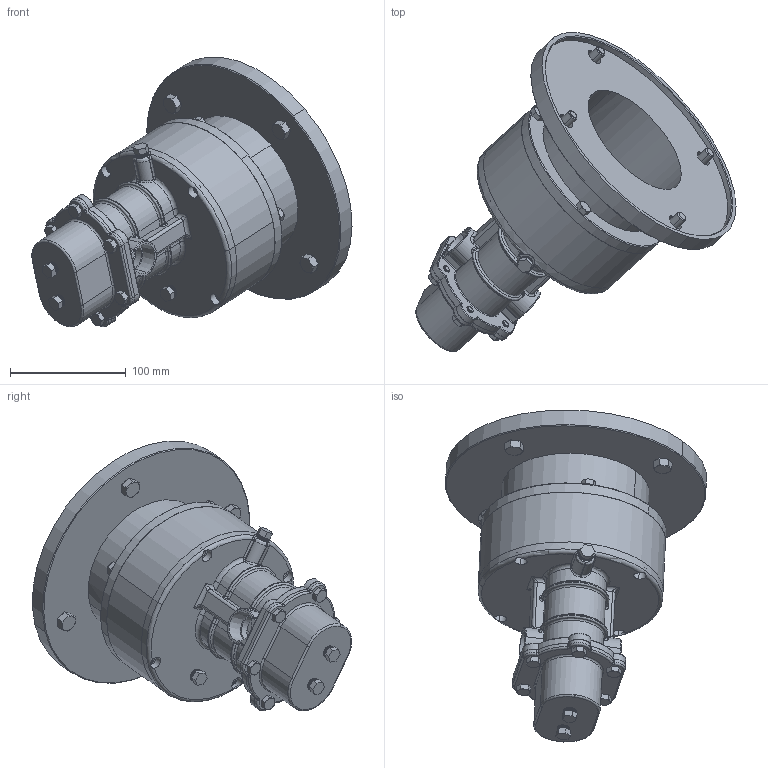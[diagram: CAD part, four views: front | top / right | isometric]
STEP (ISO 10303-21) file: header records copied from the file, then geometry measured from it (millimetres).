
FILE_DESCRIPTION (( 'STEP AP214' ), '1' );
FILE_NAME ('E25M FNPT 182-4TC NO MTR.STEP', '2025-07-11T14:19:35', ( '' ), ( '' ), 'SwSTEP 2.0', 'SolidWorks 2024', '' );
FILE_SCHEMA (( 'AUTOMOTIVE_DESIGN' ));
Length unit declared in the file: inch
Products named in the file (9): hex bolt_ai_HBOLT 0.2500-28x0.5x0.5-N; 49610; W772565_4452K541; NG040047_MACHINED; hex bolt_ai_HBOLT 0.2500-28x0.75x0.75-N; E25M FNPT 182-4TC NO MTR; hex bolt_ai_HBOLT 0.3750-16x0.75x0.75-N; NG110029; NG020017_MACHINE
Assembly tree (22 placements, depth 2):
  E25M FNPT 182-4TC NO MTR
    NG040047_MACHINED
    NG020017_MACHINE
    49610
    hex bolt_ai_HBOLT 0.2500-28x0.75x0.75-N  x4
    hex bolt_ai_HBOLT 0.3750-16x0.75x0.75-N  x4
    hex bolt_ai_HBOLT 0.2500-28x0.5x0.5-N  x6
    NG110029
    W772565_4452K541  x4
Bounding box: 276.19 x 275.36 x 232.66 mm (x, y, z)
Volume: 1142603 mm3; surface area: 354345.7 mm2
Topology: 22 solids, 22 shells, 1270 faces, 3429 edges, 2204 vertices
Faces by surface type: cylinder 401, plane 285, cone 284, torus 213, bspline 57, sphere 30
Entity records: 35412 total; most frequent: CARTESIAN_POINT 12187, DIRECTION 5115, ORIENTED_EDGE 4720, EDGE_CURVE 2360, AXIS2_PLACEMENT_3D 2199, VERTEX_POINT 1457, CIRCLE 1272, EDGE_LOOP 1053
